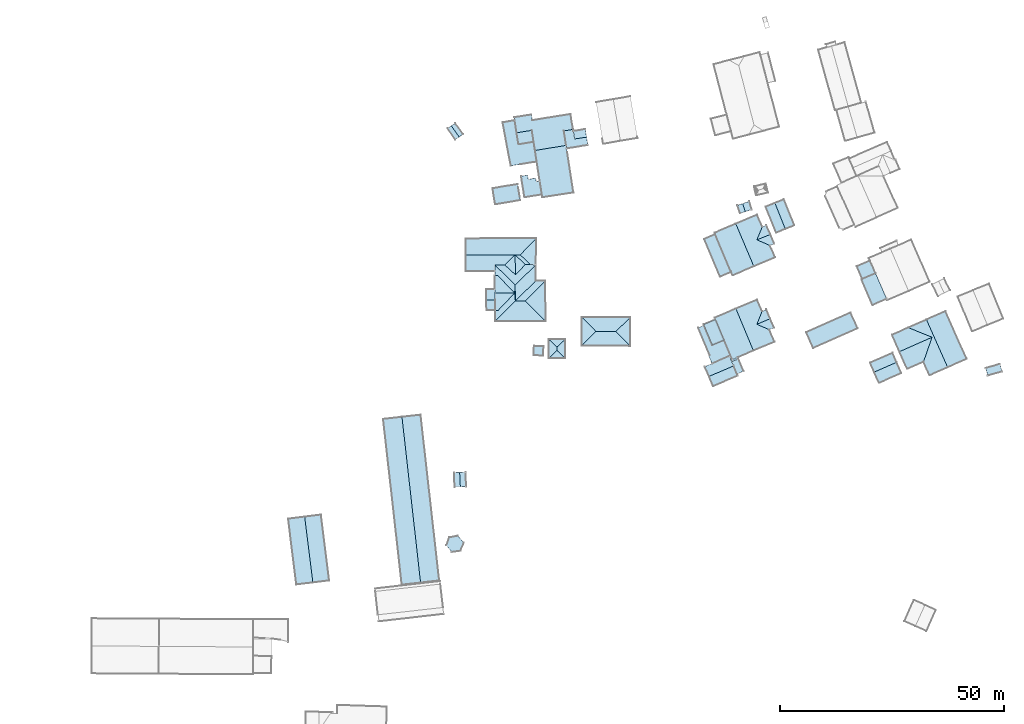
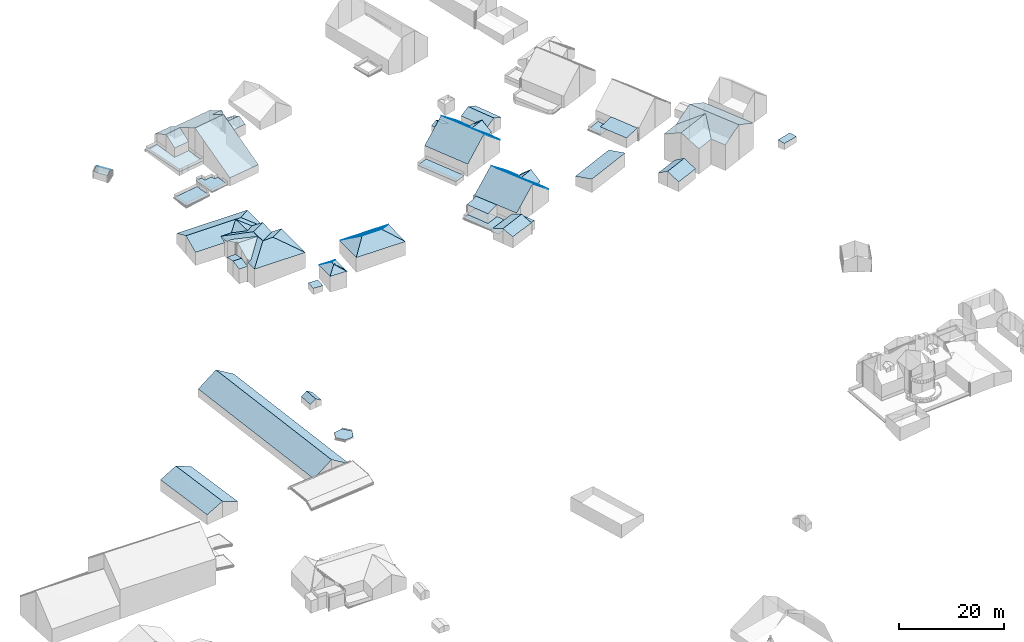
# Not in any storey, part 55 of 57: 71 roofs.
"""IFC2X3 building model written with IfcOpenShell, lengths in metres."""

from ifc_helpers import new_model, entity, si_unit, converted_unit, origin, place, context, subcontext, project, spatial, face_set, surface_model, element, save


model = new_model("IFC2X3")

# Units and contexts
model_context = context("Model", 3, precision=1e-05, world=origin())
body_context = subcontext(model_context, "Body", "Model", "MODEL_VIEW")
ifc_project = project(units=[converted_unit("PLANEANGLEUNIT", "DEGREE", entity("IfcRatioMeasure", 0.0174532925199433), si_unit("PLANEANGLEUNIT", "RADIAN"), dimensions=[0, 0, 0, 0, 0, 0, 0]), si_unit("AREAUNIT", "SQUARE_METRE"), si_unit("LENGTHUNIT", "METRE")], contexts=[model_context])

# Site, building
site_placement = place(None, origin())
site = spatial("IfcSite", under=ifc_project, at=site_placement, Name="_site", CompositionType="ELEMENT")
building_1_placement = place(site_placement, origin())
building_1 = spatial("IfcBuilding", under=site, at=building_1_placement, Name="_building", CompositionType="ELEMENT")

# Roofs
roof_1_placement = place(building_1_placement, origin())
element("IfcRoof", 1, at=roof_1_placement, inside=building_1, Name="Roof", ShapeType="NOTDEFINED", context=body_context, shape_type="SurfaceModel", body=[
    surface_model("IfcFaceBasedSurfaceModel", [(249.96, 195.98, 223.99), (248.06, 190.51, 221.99), (249.41, 187.461, 221.99), (253.45, 189.25, 224.23), (248.72, 199.91, 224.23), (244.68, 198.119, 221.99)], [face_set([[[0, 1, 2, 3, 4, 5]]])]),
])
roof_2_placement = place(building_1_placement, origin())
element("IfcRoof", 2, at=roof_2_placement, inside=building_1, Name="Roof", ShapeType="NOTDEFINED", context=body_context, shape_type="SurfaceModel", body=[
    surface_model("IfcFaceBasedSurfaceModel", [(249.96, 195.98, 223.99), (242.7, 192.76, 223.99), (244.42, 188.891, 221.99), (248.06, 190.51, 221.99)], [face_set([[[0, 1, 2, 3]]])]),
])
roof_3_placement = place(building_1_placement, origin())
element("IfcRoof", 3, at=roof_3_placement, inside=building_1, Name="Roof", ShapeType="NOTDEFINED", context=body_context, shape_type="SurfaceModel", body=[
    surface_model("IfcFaceBasedSurfaceModel", [(244.68, 198.119, 221.99), (241.04, 196.51, 221.99), (242.7, 192.76, 223.99), (249.96, 195.98, 223.99)], [face_set([[[0, 1, 2, 3]]])]),
])
roof_4_placement = place(building_1_placement, origin())
element("IfcRoof", 4, at=roof_4_placement, inside=building_1, Name="Roof", ShapeType="NOTDEFINED", context=body_context, shape_type="SurfaceModel", body=[
    surface_model("IfcFaceBasedSurfaceModel", [(253.45, 189.25, 224.23), (257.7, 191.131, 221.99), (252.97, 201.801, 221.99), (248.72, 199.91, 224.23)], [face_set([[[0, 1, 2, 3]]])]),
])

# Building
building_2_placement = place(site_placement, origin())
building_2 = spatial("IfcBuilding", under=site, at=building_2_placement, Name="_building", CompositionType="ELEMENT")

# Roofs
roof_5_placement = place(building_2_placement, origin())
element("IfcRoof", 5, at=roof_5_placement, inside=building_2, Name="Roof", ShapeType="NOTDEFINED", context=body_context, shape_type="SurfaceModel", body=[
    surface_model("IfcFaceBasedSurfaceModel", [(179.31, 197.27, 220.85), (182.57, 200.43, 218.91), (171.73, 200.49, 218.9), (174.82, 197.311, 220.79)], [face_set([[[0, 1, 2, 3]]])]),
])
roof_6_placement = place(building_2_placement, origin())
element("IfcRoof", 6, at=roof_6_placement, inside=building_2, Name="Roof", ShapeType="NOTDEFINED", context=body_context, shape_type="SurfaceModel", body=[
    surface_model("IfcFaceBasedSurfaceModel", [(182.53, 194.02, 218.88), (182.57, 200.43, 218.91), (179.31, 197.27, 220.85)], [face_set([[[0, 1, 2]]])]),
])
roof_7_placement = place(building_2_placement, origin())
element("IfcRoof", 7, at=roof_7_placement, inside=building_2, Name="Roof", ShapeType="NOTDEFINED", context=body_context, shape_type="SurfaceModel", body=[
    surface_model("IfcFaceBasedSurfaceModel", [(174.82, 197.311, 220.79), (171.73, 200.49, 218.9), (171.69, 194.08, 218.88)], [face_set([[[0, 1, 2]]])]),
])
roof_8_placement = place(building_2_placement, origin())
element("IfcRoof", 8, at=roof_8_placement, inside=building_2, Name="Roof", ShapeType="NOTDEFINED", context=body_context, shape_type="SurfaceModel", body=[
    surface_model("IfcFaceBasedSurfaceModel", [(179.31, 197.27, 220.85), (174.82, 197.311, 220.79), (171.69, 194.08, 218.88), (182.53, 194.02, 218.88)], [face_set([[[0, 1, 2, 3]]])]),
])

# Building
building_3_placement = place(site_placement, origin())
building_3 = spatial("IfcBuilding", under=site, at=building_3_placement, Name="_building", CompositionType="ELEMENT")

# Roof
roof_9_placement = place(building_3_placement, origin())
element("IfcRoof", 9, at=roof_9_placement, inside=building_3, Name="Roof", ShapeType="NOTDEFINED", context=body_context, shape_type="SurfaceModel", body=[
    surface_model("IfcFaceBasedSurfaceModel", [(265.61, 188.32, 217.78), (265.13, 189.99, 217.82), (261.95, 189.08, 217.82), (262.42, 187.41, 217.82)], [face_set([[[0, 1, 2, 3]]])]),
])

# Building
building_4_placement = place(site_placement, origin())
building_4 = spatial("IfcBuilding", under=site, at=building_4_placement, Name="_building", CompositionType="ELEMENT")

# Roofs
roof_10_placement = place(building_4_placement, origin())
element("IfcRoof", 10, at=roof_10_placement, inside=building_4, Name="Roof", ShapeType="NOTDEFINED", context=body_context, shape_type="SurfaceModel", body=[
    surface_model("IfcFaceBasedSurfaceModel", [(144.41, 165.789, 214.49), (143.17, 165.74, 213.63), (143.3, 162.51, 213.68), (144.56, 162.561, 214.49)], [face_set([[[0, 1, 2, 3]]])]),
])
roof_11_placement = place(building_4_placement, origin())
element("IfcRoof", 11, at=roof_11_placement, inside=building_4, Name="Roof", ShapeType="NOTDEFINED", context=body_context, shape_type="SurfaceModel", body=[
    surface_model("IfcFaceBasedSurfaceModel", [(144.56, 162.561, 214.49), (145.88, 162.609, 213.69), (145.75, 165.84, 213.64), (144.41, 165.789, 214.49)], [face_set([[[0, 1, 2, 3]]])]),
])

# Building
building_5_placement = place(site_placement, origin())
building_5 = spatial("IfcBuilding", under=site, at=building_5_placement, Name="_building", CompositionType="ELEMENT")

# Roofs
roof_12_placement = place(building_5_placement, origin())
element("IfcRoof", 12, at=roof_12_placement, inside=building_5, Name="Roof", ShapeType="NOTDEFINED", context=body_context, shape_type="SurfaceModel", body=[
    surface_model("IfcFaceBasedSurfaceModel", [(205.62, 189.57, 219.91), (205.22, 190.51, 219.47), (204.68, 191.76, 218.89), (200.809, 190.111, 218.932), (199.2, 189.43, 218.95), (200.13, 187.23, 219.85)], [face_set([[[0, 1, 2, 3, 4, 5]]])]),
])
roof_13_placement = place(building_5_placement, origin())
element("IfcRoof", 13, at=roof_13_placement, inside=building_5, Name="Roof", ShapeType="NOTDEFINED", context=body_context, shape_type="SurfaceModel", body=[
    surface_model("IfcFaceBasedSurfaceModel", [(200.13, 187.23, 219.85), (201.06, 185.039, 218.95), (206.55, 187.381, 218.88), (206.39, 187.76, 219.06), (205.62, 189.57, 219.91)], [face_set([[[0, 1, 2, 3, 4]]])]),
])
roof_14_placement = place(building_5_placement, origin())
element("IfcRoof", 14, at=roof_14_placement, inside=building_5, Name="Roof", ShapeType="NOTDEFINED", context=body_context, shape_type="SurfaceModel", body=[
    surface_model("IfcFaceBasedSurfaceModel", [(206.7, 191.141, 218.29), (205.22, 190.51, 218.66), (205.62, 189.57, 218.663), (206.39, 187.76, 218.67), (207.87, 188.391, 218.3)], [face_set([[[0, 1, 2, 3, 4]]])]),
])
roof_15_placement = place(building_5_placement, origin())
element("IfcRoof", 15, at=roof_15_placement, inside=building_5, Name="Roof", ShapeType="NOTDEFINED", context=body_context, shape_type="SurfaceModel", body=[
    surface_model("IfcFaceBasedSurfaceModel", [(206.521, 191.488, 216.53), (205.35, 190.99, 216.591), (203.52, 195.32, 216.591), (200.88, 194.211, 216.591), (199.0, 198.67, 216.591), (197.72, 198.109, 216.608), (200.3, 192.01, 216.608), (200.12, 191.631, 216.608), (200.809, 190.111, 216.548), (204.68, 191.76, 216.548), (205.22, 190.51, 216.548), (206.7, 191.141, 216.53)], [face_set([[[0, 1, 2, 3, 4, 5, 6, 7, 8, 9, 10, 11]]])]),
])

# Building
building_6_placement = place(site_placement, origin())
building_6 = spatial("IfcBuilding", under=site, at=building_6_placement, Name="_building", CompositionType="ELEMENT")

# Roof
roof_16_placement = place(building_6_placement, origin())
element("IfcRoof", 16, at=roof_16_placement, inside=building_6, Name="Roof", ShapeType="NOTDEFINED", context=body_context, shape_type="SurfaceModel", body=[
    surface_model("IfcFaceBasedSurfaceModel", [(163.09, 191.869, 216.7), (163.16, 193.961, 216.74), (161.03, 194.029, 216.77), (160.97, 191.93, 216.74)], [face_set([[[0, 1, 2, 3]]])]),
])

# Building
building_7_placement = place(site_placement, origin())
building_7 = spatial("IfcBuilding", under=site, at=building_7_placement, Name="_building", CompositionType="ELEMENT")

# Roofs
roof_17_placement = place(building_7_placement, origin())
element("IfcRoof", 17, at=roof_17_placement, inside=building_7, Name="Roof", ShapeType="NOTDEFINED", context=body_context, shape_type="SurfaceModel", body=[
    surface_model("IfcFaceBasedSurfaceModel", [(207.63, 225.859, 219.13), (206.48, 225.48, 218.48), (207.07, 223.65, 218.48), (208.23, 224.029, 219.13)], [face_set([[[0, 1, 2, 3]]])]),
])
roof_18_placement = place(building_7_placement, origin())
element("IfcRoof", 18, at=roof_18_placement, inside=building_7, Name="Roof", ShapeType="NOTDEFINED", context=body_context, shape_type="SurfaceModel", body=[
    surface_model("IfcFaceBasedSurfaceModel", [(208.23, 224.029, 219.13), (209.71, 224.52, 218.48), (209.11, 226.34, 218.48), (207.63, 225.859, 219.13)], [face_set([[[0, 1, 2, 3]]])]),
])

# Building
building_8_placement = place(site_placement, origin())
building_8 = spatial("IfcBuilding", under=site, at=building_8_placement, Name="_building", CompositionType="ELEMENT")

# Roofs
roof_19_placement = place(building_8_placement, origin())
element("IfcRoof", 19, at=roof_19_placement, inside=building_8, Name="Roof", ShapeType="NOTDEFINED", context=body_context, shape_type="SurfaceModel", body=[
    surface_model("IfcFaceBasedSurfaceModel", [(237.34, 210.27, 218.99), (234.2, 208.9, 218.54), (236.68, 203.18, 218.54), (239.83, 204.539, 218.99)], [face_set([[[0, 1, 2, 3]]])]),
])
roof_20_placement = place(building_8_placement, origin())
element("IfcRoof", 20, at=roof_20_placement, inside=building_8, Name="Roof", ShapeType="NOTDEFINED", context=body_context, shape_type="SurfaceModel", body=[
    surface_model("IfcFaceBasedSurfaceModel", [(236.11, 213.1, 216.61), (233.18, 211.82, 216.61), (234.4, 208.99, 216.61), (237.34, 210.27, 216.61)], [face_set([[[0, 1, 2, 3]]])]),
])

# Building
building_9_placement = place(site_placement, origin())
building_9 = spatial("IfcBuilding", under=site, at=building_9_placement, Name="_building", CompositionType="ELEMENT")

# Roofs
roof_21_placement = place(building_9_placement, origin())
element("IfcRoof", 21, at=roof_21_placement, inside=building_9, Name="Roof", ShapeType="NOTDEFINED", context=body_context, shape_type="SurfaceModel", body=[
    surface_model("IfcFaceBasedSurfaceModel", [(131.52, 178.17, 216.39), (127.34, 177.699, 213.67), (131.5, 140.65, 213.68), (135.68, 141.119, 216.41)], [face_set([[[0, 1, 2, 3]]])]),
])
roof_22_placement = place(building_9_placement, origin())
element("IfcRoof", 22, at=roof_22_placement, inside=building_9, Name="Roof", ShapeType="NOTDEFINED", context=body_context, shape_type="SurfaceModel", body=[
    surface_model("IfcFaceBasedSurfaceModel", [(135.68, 141.119, 216.41), (139.87, 141.59, 213.71), (135.7, 178.641, 213.71), (131.52, 178.17, 216.39)], [face_set([[[0, 1, 2, 3]]])]),
])

# Building
building_10_placement = place(site_placement, origin())
building_10 = spatial("IfcBuilding", under=site, at=building_10_placement, Name="_building", CompositionType="ELEMENT")

# Roofs
roof_23_placement = place(building_10_placement, origin())
element("IfcRoof", 23, at=roof_23_placement, inside=building_10, Name="Roof", ShapeType="NOTDEFINED", context=body_context, shape_type="SurfaceModel", body=[
    surface_model("IfcFaceBasedSurfaceModel", [(111.62, 141.16, 215.1), (115.28, 141.619, 213.48), (113.44, 156.32, 213.4), (109.78, 155.859, 215.09)], [face_set([[[0, 1, 2, 3]]])]),
])
roof_24_placement = place(building_10_placement, origin())
element("IfcRoof", 24, at=roof_24_placement, inside=building_10, Name="Roof", ShapeType="NOTDEFINED", context=body_context, shape_type="SurfaceModel", body=[
    surface_model("IfcFaceBasedSurfaceModel", [(109.78, 155.859, 215.09), (106.11, 155.4, 213.41), (107.95, 140.711, 213.5), (111.62, 141.16, 215.1)], [face_set([[[0, 1, 2, 3]]])]),
])

# Building
building_11_placement = place(site_placement, origin())
building_11 = spatial("IfcBuilding", under=site, at=building_11_placement, Name="_building", CompositionType="ELEMENT")

# Roof
roof_25_placement = place(building_11_placement, origin())
element("IfcRoof", 25, at=roof_25_placement, inside=building_11, Name="Roof", ShapeType="NOTDEFINED", context=body_context, shape_type="SurfaceModel", body=[
    surface_model("IfcFaceBasedSurfaceModel", [(157.86, 227.33, 218.61), (157.51, 229.381, 218.61), (157.38, 230.18, 218.61), (151.77, 229.24, 218.61), (152.37, 225.65, 218.61), (157.98, 226.59, 218.61)], [face_set([[[0, 1, 2, 3, 4, 5]]])]),
])

# Building
building_12_placement = place(site_placement, origin())
building_12 = spatial("IfcBuilding", under=site, at=building_12_placement, Name="_building", CompositionType="ELEMENT")

# Roofs
roof_26_placement = place(building_12_placement, origin())
element("IfcRoof", 26, at=roof_26_placement, inside=building_12, Name="Roof", ShapeType="NOTDEFINED", context=body_context, shape_type="SurfaceModel", body=[
    surface_model("IfcFaceBasedSurfaceModel", [(210.81, 198.869, 220.88), (211.98, 201.77, 219.22), (210.89, 204.35, 219.22), (206.14, 202.35, 223.22), (210.05, 192.98, 223.34), (214.76, 194.961, 219.22), (213.62, 197.65, 219.22)], [face_set([[[0, 1, 2, 3, 4, 5, 6]]])]),
])
roof_27_placement = place(building_12_placement, origin())
element("IfcRoof", 27, at=roof_27_placement, inside=building_12, Name="Roof", ShapeType="NOTDEFINED", context=body_context, shape_type="SurfaceModel", body=[
    surface_model("IfcFaceBasedSurfaceModel", [(201.57, 199.939, 219.23), (198.93, 198.83, 218.83), (199.0, 198.67, 218.83), (200.88, 194.211, 218.83), (203.52, 195.32, 219.3)], [face_set([[[0, 1, 2, 3, 4]]])]),
])
roof_28_placement = place(building_12_placement, origin())
element("IfcRoof", 28, at=roof_28_placement, inside=building_12, Name="Roof", ShapeType="NOTDEFINED", context=body_context, shape_type="SurfaceModel", body=[
    surface_model("IfcFaceBasedSurfaceModel", [(203.52, 195.32, 216.591), (201.57, 199.939, 216.591), (198.93, 198.83, 216.591), (199.0, 198.67, 216.591), (200.88, 194.211, 216.591)], [face_set([[[0, 1, 2, 3, 4]]])]),
])
roof_29_placement = place(building_12_placement, origin())
element("IfcRoof", 29, at=roof_29_placement, inside=building_12, Name="Roof", ShapeType="NOTDEFINED", context=body_context, shape_type="SurfaceModel", body=[
    surface_model("IfcFaceBasedSurfaceModel", [(213.62, 197.65, 219.22), (214.66, 198.09, 219.22), (213.8, 200.131, 221.07), (210.81, 198.869, 220.88)], [face_set([[[0, 1, 2, 3]]])]),
])
roof_30_placement = place(building_12_placement, origin())
element("IfcRoof", 30, at=roof_30_placement, inside=building_12, Name="Roof", ShapeType="NOTDEFINED", context=body_context, shape_type="SurfaceModel", body=[
    surface_model("IfcFaceBasedSurfaceModel", [(213.8, 200.131, 221.07), (212.94, 202.18, 219.22), (211.98, 201.77, 219.22), (210.81, 198.869, 220.88)], [face_set([[[0, 1, 2, 3]]])]),
])
roof_31_placement = place(building_12_placement, origin())
element("IfcRoof", 31, at=roof_31_placement, inside=building_12, Name="Roof", ShapeType="NOTDEFINED", context=body_context, shape_type="SurfaceModel", body=[
    surface_model("IfcFaceBasedSurfaceModel", [(203.52, 195.32, 219.3), (205.35, 190.99, 219.36), (206.521, 191.488, 220.352), (210.05, 192.98, 223.34), (206.14, 202.35, 223.22), (201.4, 200.34, 219.22), (201.57, 199.939, 219.23)], [face_set([[[0, 1, 2, 3, 4, 5, 6]]])]),
])

# Building
building_13_placement = place(site_placement, origin())
building_13 = spatial("IfcBuilding", under=site, at=building_13_placement, Name="_building", CompositionType="ELEMENT")

# Roofs
roof_32_placement = place(building_13_placement, origin())
element("IfcRoof", 32, at=roof_32_placement, inside=building_13, Name="Roof", ShapeType="NOTDEFINED", context=body_context, shape_type="SurfaceModel", body=[
    surface_model("IfcFaceBasedSurfaceModel", [(142.55, 243.23, 220.64), (141.72, 242.66, 220.0), (143.46, 240.15, 220.0), (144.29, 240.721, 220.64)], [face_set([[[0, 1, 2, 3]]])]),
])
roof_33_placement = place(building_13_placement, origin())
element("IfcRoof", 33, at=roof_33_placement, inside=building_13, Name="Roof", ShapeType="NOTDEFINED", context=body_context, shape_type="SurfaceModel", body=[
    surface_model("IfcFaceBasedSurfaceModel", [(144.29, 240.721, 220.64), (145.17, 241.32, 219.9), (143.43, 243.84, 219.9), (142.55, 243.23, 220.64)], [face_set([[[0, 1, 2, 3]]])]),
])

# Building
building_14_placement = place(site_placement, origin())
building_14 = spatial("IfcBuilding", under=site, at=building_14_placement, Name="_building", CompositionType="ELEMENT")

# Roofs
roof_34_placement = place(building_14_placement, origin())
element("IfcRoof", 34, at=roof_34_placement, inside=building_14, Name="Roof", ShapeType="NOTDEFINED", context=body_context, shape_type="SurfaceModel", body=[
    surface_model("IfcFaceBasedSurfaceModel", [(168.21, 238.85, 226.39), (167.71, 242.08, 224.64), (169.75, 242.42, 224.64), (169.2, 245.83, 222.81), (160.67, 244.449, 222.81), (160.46, 245.721, 222.11), (156.61, 245.109, 222.11), (156.718, 244.439, 222.459), (157.15, 241.67, 223.9), (160.56, 242.211, 223.99), (160.97, 239.6, 225.38), (161.26, 237.711, 226.39)], [face_set([[[0, 1, 2, 3, 4, 5, 6, 7, 8, 9, 10, 11]]])]),
])
roof_35_placement = place(building_14_placement, origin())
element("IfcRoof", 35, at=roof_35_placement, inside=building_14, Name="Roof", ShapeType="NOTDEFINED", context=body_context, shape_type="SurfaceModel", body=[
    surface_model("IfcFaceBasedSurfaceModel", [(161.651, 235.199, 220.08), (161.26, 237.711, 220.08), (160.97, 239.6, 220.08), (157.57, 239.061, 220.08), (157.15, 241.67, 220.08), (156.718, 244.439, 220.08), (154.03, 243.971, 220.101), (155.86, 234.26, 220.101), (156.49, 234.391, 220.08), (157.93, 234.619, 220.08)], [face_set([[[0, 1, 2, 3, 4, 5, 6, 7, 8, 9]]])]),
])
roof_36_placement = place(building_14_placement, origin())
element("IfcRoof", 36, at=roof_36_placement, inside=building_14, Name="Roof", ShapeType="NOTDEFINED", context=body_context, shape_type="SurfaceModel", body=[
    surface_model("IfcFaceBasedSurfaceModel", [(162.8, 227.84, 218.64), (162.33, 230.881, 218.64), (161.54, 230.76, 218.64), (161.42, 231.551, 218.64), (159.74, 231.289, 218.64), (159.59, 232.221, 218.64), (158.16, 231.99, 218.64), (158.9, 227.23, 218.64)], [face_set([[[0, 1, 2, 3, 4, 5, 6, 7]]])]),
])
roof_37_placement = place(building_14_placement, origin())
element("IfcRoof", 37, at=roof_37_placement, inside=building_14, Name="Roof", ShapeType="NOTDEFINED", context=body_context, shape_type="SurfaceModel", body=[
    surface_model("IfcFaceBasedSurfaceModel", [(167.71, 242.08, 224.64), (168.21, 238.85, 222.729), (168.32, 238.141, 222.31), (173.07, 238.91, 222.38), (172.78, 240.689, 223.36), (170.1, 240.279, 223.36), (169.81, 242.029, 224.4), (169.75, 242.42, 224.64)], [face_set([[[0, 1, 2, 3, 4, 5, 6, 7]]])]),
])
roof_38_placement = place(building_14_placement, origin())
element("IfcRoof", 38, at=roof_38_placement, inside=building_14, Name="Roof", ShapeType="NOTDEFINED", context=body_context, shape_type="SurfaceModel", body=[
    surface_model("IfcFaceBasedSurfaceModel", [(157.15, 241.67, 223.9), (157.57, 239.061, 222.15), (160.97, 239.6, 222.15), (160.56, 242.211, 223.99)], [face_set([[[0, 1, 2, 3]]])]),
])
roof_39_placement = place(building_14_placement, origin())
element("IfcRoof", 39, at=roof_39_placement, inside=building_14, Name="Roof", ShapeType="NOTDEFINED", context=body_context, shape_type="SurfaceModel", body=[
    surface_model("IfcFaceBasedSurfaceModel", [(172.78, 240.689, 223.36), (172.49, 242.471, 222.42), (169.81, 242.029, 222.8), (170.1, 240.279, 223.36)], [face_set([[[0, 1, 2, 3]]])]),
])
roof_40_placement = place(building_14_placement, origin())
element("IfcRoof", 40, at=roof_40_placement, inside=building_14, Name="Roof", ShapeType="NOTDEFINED", context=body_context, shape_type="SurfaceModel", body=[
    surface_model("IfcFaceBasedSurfaceModel", [(161.26, 237.711, 226.39), (161.651, 235.199, 224.98), (162.9, 227.221, 220.5), (169.85, 228.311, 220.5), (168.32, 238.141, 225.99), (168.21, 238.85, 226.39)], [face_set([[[0, 1, 2, 3, 4, 5]]])]),
])

# Building
building_15_placement = place(site_placement, origin())
building_15 = spatial("IfcBuilding", under=site, at=building_15_placement, Name="_building", CompositionType="ELEMENT")

# Roof
roof_41_placement = place(building_15_placement, origin())
element("IfcRoof", 41, at=roof_41_placement, inside=building_15, Name="Roof", ShapeType="NOTDEFINED", context=body_context, shape_type="SurfaceModel", body=[
    surface_model("IfcFaceBasedSurfaceModel", [(144.6, 148.26, 214.34), (145.34, 150.07, 214.36), (144.03, 151.59, 214.36), (142.1, 151.25, 214.36), (141.43, 149.461, 214.39), (142.69, 147.971, 214.36)], [face_set([[[0, 1, 2, 3, 4, 5]]])]),
])

# Building
building_16_placement = place(site_placement, origin())
building_16 = spatial("IfcBuilding", under=site, at=building_16_placement, Name="_building", CompositionType="ELEMENT")

# Roofs
roof_42_placement = place(building_16_placement, origin())
element("IfcRoof", 42, at=roof_42_placement, inside=building_16, Name="Roof", ShapeType="NOTDEFINED", context=body_context, shape_type="SurfaceModel", body=[
    surface_model("IfcFaceBasedSurfaceModel", [(217.18, 220.16, 219.75), (219.21, 220.98, 218.73), (216.87, 226.779, 218.73), (214.85, 225.961, 219.73)], [face_set([[[0, 1, 2, 3]]])]),
])
roof_43_placement = place(building_16_placement, origin())
element("IfcRoof", 43, at=roof_43_placement, inside=building_16, Name="Roof", ShapeType="NOTDEFINED", context=body_context, shape_type="SurfaceModel", body=[
    surface_model("IfcFaceBasedSurfaceModel", [(214.85, 225.961, 219.73), (212.81, 225.141, 218.73), (215.15, 219.34, 218.73), (217.18, 220.16, 219.75)], [face_set([[[0, 1, 2, 3]]])]),
])

# Building
building_17_placement = place(site_placement, origin())
building_17 = spatial("IfcBuilding", under=site, at=building_17_placement, Name="_building", CompositionType="ELEMENT")

# Roofs
roof_44_placement = place(building_17_placement, origin())
element("IfcRoof", 44, at=roof_44_placement, inside=building_17, Name="Roof", ShapeType="NOTDEFINED", context=body_context, shape_type="SurfaceModel", body=[
    surface_model("IfcFaceBasedSurfaceModel", [(154.51, 212.109, 219.76), (156.79, 214.391, 220.75), (145.81, 214.4, 220.75), (145.82, 210.77, 219.04), (152.28, 210.779, 219.03), (152.27, 212.131, 219.76)], [face_set([[[0, 1, 2, 3, 4, 5]]])]),
])
roof_45_placement = place(building_17_placement, origin())
element("IfcRoof", 45, at=roof_45_placement, inside=building_17, Name="Roof", ShapeType="NOTDEFINED", context=body_context, shape_type="SurfaceModel", body=[
    surface_model("IfcFaceBasedSurfaceModel", [(152.34, 199.551, 219.64), (163.6, 199.52, 219.63), (159.1, 204.08, 222.0), (156.85, 204.07, 221.97)], [face_set([[[0, 1, 2, 3]]])]),
])
roof_46_placement = place(building_17_placement, origin())
element("IfcRoof", 46, at=roof_46_placement, inside=building_17, Name="Roof", ShapeType="NOTDEFINED", context=body_context, shape_type="SurfaceModel", body=[
    surface_model("IfcFaceBasedSurfaceModel", [(163.6, 199.52, 219.63), (163.58, 208.58, 219.72), (159.1, 204.08, 222.0)], [face_set([[[0, 1, 2]]])]),
])
roof_47_placement = place(building_17_placement, origin())
element("IfcRoof", 47, at=roof_47_placement, inside=building_17, Name="Roof", ShapeType="NOTDEFINED", context=body_context, shape_type="SurfaceModel", body=[
    surface_model("IfcFaceBasedSurfaceModel", [(156.85, 204.07, 221.97), (156.82, 207.68, 221.91), (152.27, 212.131, 219.76), (152.28, 210.779, 219.75), (152.29, 209.74, 219.74), (152.96, 209.75, 220.14), (156.69, 205.84, 221.97), (153.0, 201.971, 220.15), (152.33, 201.971, 219.66), (152.34, 199.551, 219.64)], [face_set([[[0, 1, 2, 3, 4, 5, 6, 7, 8, 9]]])]),
])
roof_48_placement = place(building_17_placement, origin())
element("IfcRoof", 48, at=roof_48_placement, inside=building_17, Name="Roof", ShapeType="NOTDEFINED", context=body_context, shape_type="SurfaceModel", body=[
    surface_model("IfcFaceBasedSurfaceModel", [(161.45, 212.15, 219.73), (156.82, 207.68, 221.91), (156.85, 204.07, 221.97), (161.4, 208.57, 219.72)], [face_set([[[0, 1, 2, 3]]])]),
])
roof_49_placement = place(building_17_placement, origin())
element("IfcRoof", 49, at=roof_49_placement, inside=building_17, Name="Roof", ShapeType="NOTDEFINED", context=body_context, shape_type="SurfaceModel", body=[
    surface_model("IfcFaceBasedSurfaceModel", [(154.51, 212.109, 219.76), (152.27, 212.131, 219.76), (156.82, 207.68, 221.91), (161.45, 212.15, 219.73), (160.23, 212.199, 219.74), (159.09, 212.23, 219.73), (156.89, 209.93, 220.76)], [face_set([[[0, 1, 2, 3, 4, 5, 6]]])]),
])
roof_50_placement = place(building_17_placement, origin())
element("IfcRoof", 50, at=roof_50_placement, inside=building_17, Name="Roof", ShapeType="NOTDEFINED", context=body_context, shape_type="SurfaceModel", body=[
    surface_model("IfcFaceBasedSurfaceModel", [(157.95, 214.391, 220.75), (160.23, 212.199, 219.74), (161.45, 212.15, 219.02), (161.5, 218.061, 219.05)], [face_set([[[0, 1, 2, 3]]])]),
])
roof_51_placement = place(building_17_placement, origin())
element("IfcRoof", 51, at=roof_51_placement, inside=building_17, Name="Roof", ShapeType="NOTDEFINED", context=body_context, shape_type="SurfaceModel", body=[
    surface_model("IfcFaceBasedSurfaceModel", [(159.1, 204.08, 222.0), (163.58, 208.58, 219.72), (161.4, 208.57, 219.72), (156.85, 204.07, 221.97)], [face_set([[[0, 1, 2, 3]]])]),
])
roof_52_placement = place(building_17_placement, origin())
element("IfcRoof", 52, at=roof_52_placement, inside=building_17, Name="Roof", ShapeType="NOTDEFINED", context=body_context, shape_type="SurfaceModel", body=[
    surface_model("IfcFaceBasedSurfaceModel", [(152.309, 205.891, 221.93), (152.319, 204.35, 221.234), (152.33, 202.039, 220.19), (152.33, 201.971, 220.16), (153.0, 201.971, 220.15), (156.69, 205.84, 221.97)], [face_set([[[0, 1, 2, 3, 4, 5]]])]),
])
roof_53_placement = place(building_17_placement, origin())
element("IfcRoof", 53, at=roof_53_placement, inside=building_17, Name="Roof", ShapeType="NOTDEFINED", context=body_context, shape_type="SurfaceModel", body=[
    surface_model("IfcFaceBasedSurfaceModel", [(152.96, 209.75, 220.14), (152.29, 209.74, 220.14), (152.3, 206.67, 221.57), (152.309, 205.891, 221.93), (156.69, 205.84, 221.97)], [face_set([[[0, 1, 2, 3, 4]]])]),
])
roof_54_placement = place(building_17_placement, origin())
element("IfcRoof", 54, at=roof_54_placement, inside=building_17, Name="Roof", ShapeType="NOTDEFINED", context=body_context, shape_type="SurfaceModel", body=[
    surface_model("IfcFaceBasedSurfaceModel", [(156.89, 209.93, 220.76), (156.79, 214.391, 220.75), (154.51, 212.109, 219.76)], [face_set([[[0, 1, 2]]])]),
])
roof_55_placement = place(building_17_placement, origin())
element("IfcRoof", 55, at=roof_55_placement, inside=building_17, Name="Roof", ShapeType="NOTDEFINED", context=body_context, shape_type="SurfaceModel", body=[
    surface_model("IfcFaceBasedSurfaceModel", [(156.89, 209.93, 220.76), (159.09, 212.23, 219.73), (156.79, 214.391, 220.75)], [face_set([[[0, 1, 2]]])]),
])
roof_56_placement = place(building_17_placement, origin())
element("IfcRoof", 56, at=roof_56_placement, inside=building_17, Name="Roof", ShapeType="NOTDEFINED", context=body_context, shape_type="SurfaceModel", body=[
    surface_model("IfcFaceBasedSurfaceModel", [(152.319, 204.35, 219.33), (152.309, 205.891, 218.991), (152.3, 206.67, 218.82), (150.38, 206.66, 218.82), (150.4, 204.34, 219.33)], [face_set([[[0, 1, 2, 3, 4]]])]),
])
roof_57_placement = place(building_17_placement, origin())
element("IfcRoof", 57, at=roof_57_placement, inside=building_17, Name="Roof", ShapeType="NOTDEFINED", context=body_context, shape_type="SurfaceModel", body=[
    surface_model("IfcFaceBasedSurfaceModel", [(150.4, 204.34, 219.33), (150.41, 202.029, 218.82), (152.33, 202.039, 218.82), (152.319, 204.35, 219.33)], [face_set([[[0, 1, 2, 3]]])]),
])
roof_58_placement = place(building_17_placement, origin())
element("IfcRoof", 58, at=roof_58_placement, inside=building_17, Name="Roof", ShapeType="NOTDEFINED", context=body_context, shape_type="SurfaceModel", body=[
    surface_model("IfcFaceBasedSurfaceModel", [(156.79, 214.391, 220.75), (159.09, 212.23, 219.73), (160.23, 212.199, 219.74), (157.95, 214.391, 220.75)], [face_set([[[0, 1, 2, 3]]])]),
])
roof_59_placement = place(building_17_placement, origin())
element("IfcRoof", 59, at=roof_59_placement, inside=building_17, Name="Roof", ShapeType="NOTDEFINED", context=body_context, shape_type="SurfaceModel", body=[
    surface_model("IfcFaceBasedSurfaceModel", [(161.5, 218.061, 219.05), (145.81, 218.039, 219.08), (145.81, 214.4, 220.75), (156.79, 214.391, 220.75), (157.95, 214.391, 220.75)], [face_set([[[0, 1, 2, 3, 4]]])]),
])

# Building
building_18_placement = place(site_placement, origin())
building_18 = spatial("IfcBuilding", under=site, at=building_18_placement, Name="_building", CompositionType="ELEMENT")

# Roofs
roof_60_placement = place(building_18_placement, origin())
element("IfcRoof", 60, at=roof_60_placement, inside=building_18, Name="Roof", ShapeType="NOTDEFINED", context=body_context, shape_type="SurfaceModel", body=[
    surface_model("IfcFaceBasedSurfaceModel", [(210.82, 217.74, 221.04), (212.03, 220.65, 219.35), (210.88, 223.35, 219.36), (206.12, 221.32, 223.4), (210.15, 211.801, 223.49), (214.9, 213.82, 219.27), (213.77, 216.471, 219.33)], [face_set([[[0, 1, 2, 3, 4, 5, 6]]])]),
])
roof_61_placement = place(building_18_placement, origin())
element("IfcRoof", 61, at=roof_61_placement, inside=building_18, Name="Roof", ShapeType="NOTDEFINED", context=body_context, shape_type="SurfaceModel", body=[
    surface_model("IfcFaceBasedSurfaceModel", [(205.07, 210.561, 216.41), (201.5, 218.971, 216.41), (199.05, 217.93, 216.41), (202.62, 209.52, 216.41)], [face_set([[[0, 1, 2, 3]]])]),
])
roof_62_placement = place(building_18_placement, origin())
element("IfcRoof", 62, at=roof_62_placement, inside=building_18, Name="Roof", ShapeType="NOTDEFINED", context=body_context, shape_type="SurfaceModel", body=[
    surface_model("IfcFaceBasedSurfaceModel", [(213.77, 216.471, 219.33), (214.73, 216.869, 219.35), (213.84, 218.949, 221.17), (210.82, 217.74, 221.04)], [face_set([[[0, 1, 2, 3]]])]),
])
roof_63_placement = place(building_18_placement, origin())
element("IfcRoof", 63, at=roof_63_placement, inside=building_18, Name="Roof", ShapeType="NOTDEFINED", context=body_context, shape_type="SurfaceModel", body=[
    surface_model("IfcFaceBasedSurfaceModel", [(213.84, 218.949, 221.17), (212.96, 221.039, 219.35), (212.03, 220.65, 219.35), (210.82, 217.74, 221.04)], [face_set([[[0, 1, 2, 3]]])]),
])
roof_64_placement = place(building_18_placement, origin())
element("IfcRoof", 64, at=roof_64_placement, inside=building_18, Name="Roof", ShapeType="NOTDEFINED", context=body_context, shape_type="SurfaceModel", body=[
    surface_model("IfcFaceBasedSurfaceModel", [(206.12, 221.32, 223.4), (201.36, 219.301, 219.36), (205.4, 209.789, 219.38), (210.15, 211.801, 223.49)], [face_set([[[0, 1, 2, 3]]])]),
])

# Building
building_19_placement = place(site_placement, origin())
building_19 = spatial("IfcBuilding", under=site, at=building_19_placement, Name="_building", CompositionType="ELEMENT")

# Roof
roof_65_placement = place(building_19_placement, origin())
element("IfcRoof", 65, at=roof_65_placement, inside=building_19, Name="Roof", ShapeType="NOTDEFINED", context=body_context, shape_type="SurfaceModel", body=[
    surface_model("IfcFaceBasedSurfaceModel", [(231.77, 201.49, 218.51), (221.87, 197.09, 218.51), (223.44, 193.57, 219.39), (233.34, 197.961, 219.39)], [face_set([[[0, 1, 2, 3]]])]),
])

# Building
building_20_placement = place(site_placement, origin())
building_20 = spatial("IfcBuilding", under=site, at=building_20_placement, Name="_building", CompositionType="ELEMENT")

# Roofs
roof_66_placement = place(building_20_placement, origin())
element("IfcRoof", 66, at=roof_66_placement, inside=building_20, Name="Roof", ShapeType="NOTDEFINED", context=body_context, shape_type="SurfaceModel", body=[
    surface_model("IfcFaceBasedSurfaceModel", [(164.29, 195.539, 218.8), (164.28, 191.24, 218.81), (166.12, 193.051, 219.88), (166.14, 193.789, 219.88)], [face_set([[[0, 1, 2, 3]]])]),
])
roof_67_placement = place(building_20_placement, origin())
element("IfcRoof", 67, at=roof_67_placement, inside=building_20, Name="Roof", ShapeType="NOTDEFINED", context=body_context, shape_type="SurfaceModel", body=[
    surface_model("IfcFaceBasedSurfaceModel", [(166.12, 193.051, 219.88), (164.28, 191.24, 218.81), (168.03, 191.23, 218.73)], [face_set([[[0, 1, 2]]])]),
])
roof_68_placement = place(building_20_placement, origin())
element("IfcRoof", 68, at=roof_68_placement, inside=building_20, Name="Roof", ShapeType="NOTDEFINED", context=body_context, shape_type="SurfaceModel", body=[
    surface_model("IfcFaceBasedSurfaceModel", [(166.14, 193.789, 219.88), (168.04, 195.529, 218.73), (164.29, 195.539, 218.8)], [face_set([[[0, 1, 2]]])]),
])
roof_69_placement = place(building_20_placement, origin())
element("IfcRoof", 69, at=roof_69_placement, inside=building_20, Name="Roof", ShapeType="NOTDEFINED", context=body_context, shape_type="SurfaceModel", body=[
    surface_model("IfcFaceBasedSurfaceModel", [(168.03, 191.23, 218.73), (168.04, 195.529, 218.73), (166.14, 193.789, 219.88), (166.12, 193.051, 219.88)], [face_set([[[0, 1, 2, 3]]])]),
])

# Building
building_21_placement = place(site_placement, origin())
building_21 = spatial("IfcBuilding", under=site, at=building_21_placement, Name="_building", CompositionType="ELEMENT")

# Roofs
roof_70_placement = place(building_21_placement, origin())
element("IfcRoof", 70, at=roof_70_placement, inside=building_21, Name="Roof", ShapeType="NOTDEFINED", context=body_context, shape_type="SurfaceModel", body=[
    surface_model("IfcFaceBasedSurfaceModel", [(242.05, 190.381, 219.71), (241.13, 192.471, 218.35), (236.14, 190.289, 218.35), (237.06, 188.199, 219.71)], [face_set([[[0, 1, 2, 3]]])]),
])
roof_71_placement = place(building_21_placement, origin())
element("IfcRoof", 71, at=roof_71_placement, inside=building_21, Name="Roof", ShapeType="NOTDEFINED", context=body_context, shape_type="SurfaceModel", body=[
    surface_model("IfcFaceBasedSurfaceModel", [(237.06, 188.199, 219.71), (238.12, 185.76, 218.35), (243.11, 187.939, 218.35), (242.05, 190.381, 219.71)], [face_set([[[0, 1, 2, 3]]])]),
])

save(model, "model.ifc")
